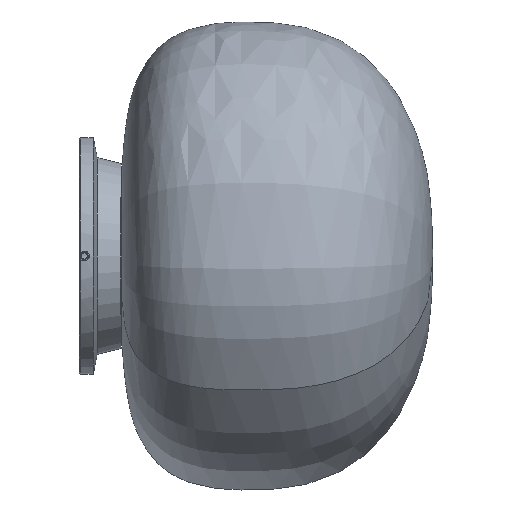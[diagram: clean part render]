
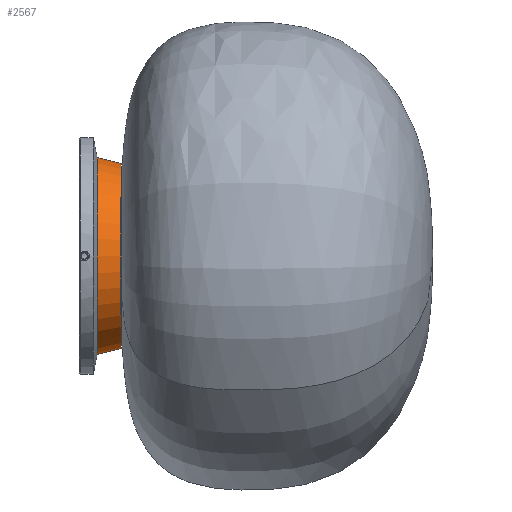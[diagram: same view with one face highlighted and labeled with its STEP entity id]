
A CAD part, left-side view. The second image highlights one B-rep face of the part: STEP entity #2567.
In plain terms, the highlighted conical face has half-angle 14.036 degrees and reference radius 75 mm.
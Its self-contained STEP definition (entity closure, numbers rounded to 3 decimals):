
#1392 = ORIENTED_EDGE ( 'NONE', *, *, #11922, .T. ) ;
#1528 = EDGE_CURVE ( 'NONE', #23501, #15748, #3908, .T. ) ;
#1924 = CARTESIAN_POINT ( 'NONE',  ( 0., -14.403, -79.899 ) ) ;
#2121 = DIRECTION ( 'NONE',  ( 0., 0., -1. ) ) ;
#2567 = ADVANCED_FACE ( 'NONE', ( #8000 ), #5496, .T. ) ;
#3857 = VECTOR ( 'NONE', #10008, 1000. ) ;
#3867 = CARTESIAN_POINT ( 'NONE',  ( 0., -34., 0. ) ) ;
#3908 = LINE ( 'NONE', #11496, #3857 ) ;
#4038 = CARTESIAN_POINT ( 'NONE',  ( 0., -34., 0. ) ) ;
#4283 = DIRECTION ( 'NONE',  ( 0., 0., 1. ) ) ;
#5496 = CONICAL_SURFACE ( 'NONE', #21014, 75., 0.245 ) ;
#7352 = VERTEX_POINT ( 'NONE', #23821 ) ;
#7710 = DIRECTION ( 'NONE',  ( 0., -1., 0. ) ) ;
#8000 = FACE_OUTER_BOUND ( 'NONE', #11085, .T. ) ;
#8030 = CIRCLE ( 'NONE', #19588, 75. ) ;
#8075 = ORIENTED_EDGE ( 'NONE', *, *, #23216, .F. ) ;
#9371 = ORIENTED_EDGE ( 'NONE', *, *, #16593, .T. ) ;
#10008 = DIRECTION ( 'NONE',  ( 0., 0.97, -0.243 ) ) ;
#11068 = CARTESIAN_POINT ( 'NONE',  ( 0., -14.403, 0. ) ) ;
#11085 = EDGE_LOOP ( 'NONE', ( #13669, #8075, #9371, #1392 ) ) ;
#11496 = CARTESIAN_POINT ( 'NONE',  ( 0., -34., -75. ) ) ;
#11773 = VERTEX_POINT ( 'NONE', #12548 ) ;
#11922 = EDGE_CURVE ( 'NONE', #7352, #15748, #15858, .T. ) ;
#12548 = CARTESIAN_POINT ( 'NONE',  ( 0., -34., 75. ) ) ;
#12725 = CARTESIAN_POINT ( 'NONE',  ( 0., -34., 75. ) ) ;
#13602 = DIRECTION ( 'NONE',  ( 0., 1., 0. ) ) ;
#13669 = ORIENTED_EDGE ( 'NONE', *, *, #1528, .F. ) ;
#15748 = VERTEX_POINT ( 'NONE', #1924 ) ;
#15858 = CIRCLE ( 'NONE', #17870, 79.899 ) ;
#16471 = LINE ( 'NONE', #12725, #21356 ) ;
#16593 = EDGE_CURVE ( 'NONE', #11773, #7352, #16471, .T. ) ;
#16785 = DIRECTION ( 'NONE',  ( 0., 0., -1. ) ) ;
#17697 = CARTESIAN_POINT ( 'NONE',  ( 0., -34., -75. ) ) ;
#17870 = AXIS2_PLACEMENT_3D ( 'NONE', #11068, #24269, #16785 ) ;
#19588 = AXIS2_PLACEMENT_3D ( 'NONE', #3867, #7710, #2121 ) ;
#21014 = AXIS2_PLACEMENT_3D ( 'NONE', #4038, #13602, #4283 ) ;
#21356 = VECTOR ( 'NONE', #24201, 1000. ) ;
#23216 = EDGE_CURVE ( 'NONE', #11773, #23501, #8030, .T. ) ;
#23501 = VERTEX_POINT ( 'NONE', #17697 ) ;
#23821 = CARTESIAN_POINT ( 'NONE',  ( 0., -14.403, 79.899 ) ) ;
#24201 = DIRECTION ( 'NONE',  ( 0., 0.97, 0.243 ) ) ;
#24269 = DIRECTION ( 'NONE',  ( 0., -1., 0. ) ) ;
